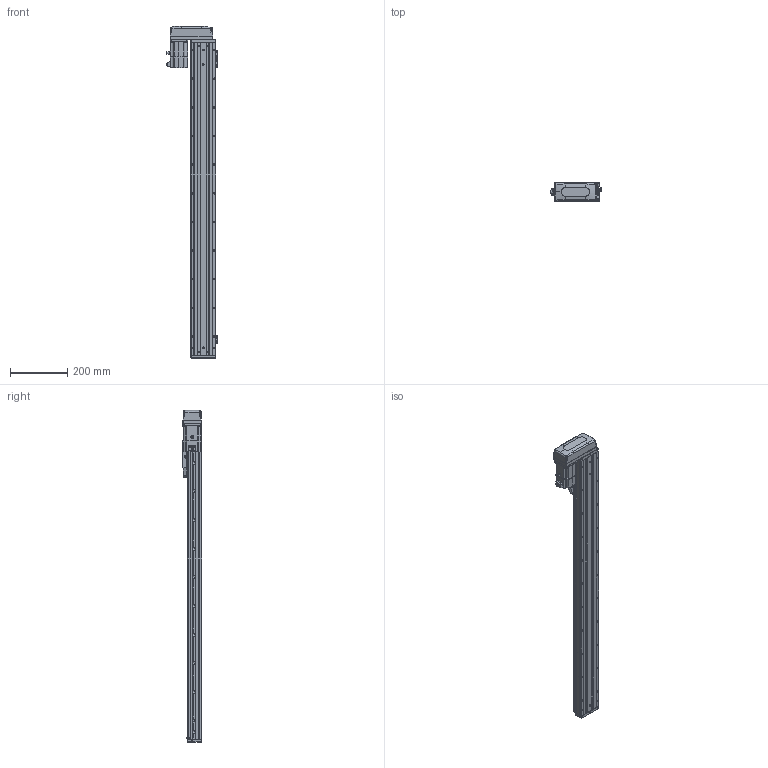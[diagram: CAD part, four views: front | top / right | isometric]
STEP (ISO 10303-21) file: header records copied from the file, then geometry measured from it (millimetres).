
FILE_DESCRIPTION (( 'STEP AP203' ), '1' );
FILE_NAME ('CTHA86-900-BR-M20-C4L.step', '2022-04-26T01:01:40', ( '微软用户' ), ( '微软中国' ), 'SwSTEP 2.0', 'SolidWorks 2020', '' );
FILE_SCHEMA (( 'CONFIG_CONTROL_DESIGN' ));
Length unit declared in the file: millimetre
Products named in the file (21): CTHA86-002; KTHA86-005; GBT70.1 M5℅16; CTHA86-031; GB¨uT 70.2-M3¡Á5_M3¡Á6; GBT 70.1-M3×16; CTHA86-030; EE_SX911P_R; GBT 70.1-M3℅6; GBT 70.3-M3℅6; CTHA60-017; CTHA86-015-1_CTHA86-015-2; CTHA60-021; CTHA60-016; CTHA86-033; KTHA86-001_1090; GBT77-2000 M3×3; _X2_4E0983F1_X0_200W_1; CTHA86-900-BR-M20-C4L; KTHA86-004; GBT 70.1-M3×20
Assembly tree (66 placements, depth 2):
  CTHA86-900-BR-M20-C4L
    KTHA86-001_1090
    KTHA86-004
    KTHA86-005
    GB¨uT 70.2-M3¡Á5_M3¡Á6  x10
    EE_SX911P_R  x3
    CTHA60-017  x3
    CTHA60-021  x2
    GBT77-2000 M3×3  x6
    GBT 70.1-M3×20
    GBT70.1 M5℅16  x14
    GBT 70.1-M3×16  x5
    GBT 70.1-M3℅6  x6
    CTHA60-016  x2
    _X2_4E0983F1_X0_200W_1
    CTHA86-002
    CTHA86-031
    CTHA86-030  x2
    GBT 70.3-M3℅6  x4
    CTHA86-015-1_CTHA86-015-2
    CTHA86-033
Bounding box: 178.52 x 68 x 1159 mm (x, y, z)
Volume: 4343379.6 mm3; surface area: 741079.8 mm2
Topology: 68 solids, 68 shells, 2846 faces, 6820 edges, 4204 vertices
Faces by surface type: plane 1499, cylinder 741, cone 375, torus 132, bspline 75, sphere 24
Entity records: 51019 total; most frequent: CARTESIAN_POINT 9843, DIRECTION 7959, ORIENTED_EDGE 7740, EDGE_CURVE 3870, AXIS2_PLACEMENT_3D 2704, LINE 2551, VECTOR 2551, VERTEX_POINT 2436
